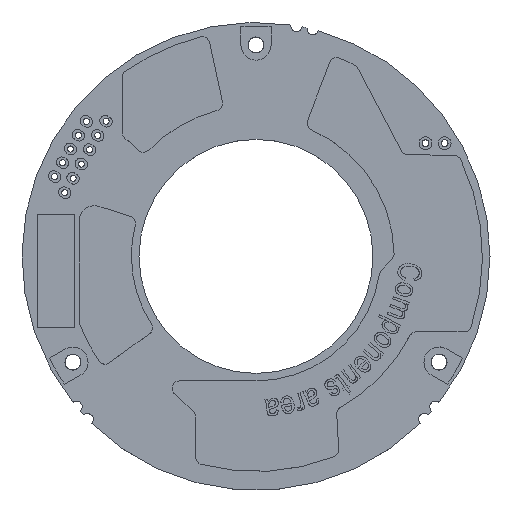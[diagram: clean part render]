
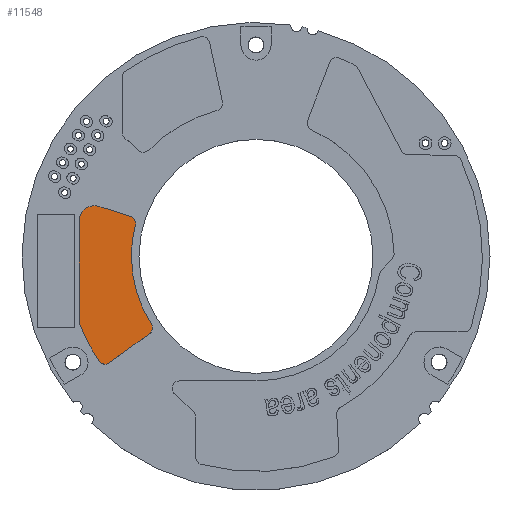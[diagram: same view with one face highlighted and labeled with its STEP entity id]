
A CAD part, top view. The second image highlights one B-rep face of the part: STEP entity #11548.
In plain terms, the highlighted planar face has unit normal (0, 0, 1).
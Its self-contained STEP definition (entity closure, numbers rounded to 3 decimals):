
#1 = CARTESIAN_POINT ( 'NONE',  ( 8.594, 29.712, 2.3 ) ) ;
#357 = CARTESIAN_POINT ( 'NONE',  ( 9.17, 11.176, 2.3 ) ) ;
#378 = CARTESIAN_POINT ( 'NONE',  ( 15.271, 15.55, 2.3 ) ) ;
#2831 = ORIENTED_EDGE ( 'NONE', *, *, #43457, .T. ) ;
#3471 = CARTESIAN_POINT ( 'NONE',  ( 9.2, 31.618, 2.3 ) ) ;
#3557 = PLANE ( 'NONE',  #38027 ) ;
#3920 = CIRCLE ( 'NONE', #37502, 16.5 ) ;
#4774 = EDGE_CURVE ( 'NONE', #26475, #36529, #43014, .T. ) ;
#5267 = VECTOR ( 'NONE', #18333, 1000. ) ;
#6049 = CARTESIAN_POINT ( 'NONE',  ( 14.277, 30.003, 2.3 ) ) ;
#6112 = VERTEX_POINT ( 'NONE', #35455 ) ;
#6331 = DIRECTION ( 'NONE',  ( -0.953, 0.303, 0. ) ) ;
#6802 = VECTOR ( 'NONE', #22735, 1000. ) ;
#7563 = VERTEX_POINT ( 'NONE', #57113 ) ;
#8811 = DIRECTION ( 'NONE',  ( 0., 0., 1. ) ) ;
#10110 = LINE ( 'NONE', #54402, #5267 ) ;
#10896 = CARTESIAN_POINT ( 'NONE',  ( 30., 25., 2.3 ) ) ;
#11156 = VECTOR ( 'NONE', #6331, 1000. ) ;
#11206 = CIRCLE ( 'NONE', #25171, 1. ) ;
#11548 = ADVANCED_FACE ( 'NONE', ( #48506 ), #3557, .T. ) ;
#12911 = CARTESIAN_POINT ( 'NONE',  ( 7.594, 16.4, 2.3 ) ) ;
#13164 = DIRECTION ( 'NONE',  ( -1., 0., 0. ) ) ;
#13383 = ORIENTED_EDGE ( 'NONE', *, *, #55078, .T. ) ;
#15378 = ORIENTED_EDGE ( 'NONE', *, *, #4774, .T. ) ;
#15591 = DIRECTION ( 'NONE',  ( 0., 0., -1. ) ) ;
#16144 = VERTEX_POINT ( 'NONE', #18859 ) ;
#16810 = DIRECTION ( 'NONE',  ( 0., 0., 1. ) ) ;
#17058 = DIRECTION ( 'NONE',  ( 0., 0., 1. ) ) ;
#18333 = DIRECTION ( 'NONE',  ( 0., -1., 0. ) ) ;
#18597 = CARTESIAN_POINT ( 'NONE',  ( 6.66, 16.042, 2.3 ) ) ;
#18859 = CARTESIAN_POINT ( 'NONE',  ( 14.016, 29.096, 2.3 ) ) ;
#19397 = AXIS2_PLACEMENT_3D ( 'NONE', #47706, #16810, #43921 ) ;
#19837 = CARTESIAN_POINT ( 'NONE',  ( 15.858, 14.741, 2.3 ) ) ;
#19872 = DIRECTION ( 'NONE',  ( 1., 0., 0. ) ) ;
#20285 = CIRCLE ( 'NONE', #19397, 1. ) ;
#20879 = VERTEX_POINT ( 'NONE', #357 ) ;
#21895 = DIRECTION ( 'NONE',  ( 0., 0., 1. ) ) ;
#22502 = EDGE_CURVE ( 'NONE', #38147, #56189, #11206, .T. ) ;
#22734 = ORIENTED_EDGE ( 'NONE', *, *, #22502, .T. ) ;
#22735 = DIRECTION ( 'NONE',  ( 0.809, 0.587, 0. ) ) ;
#22997 = ORIENTED_EDGE ( 'NONE', *, *, #36223, .T. ) ;
#23678 = CIRCLE ( 'NONE', #48852, 25. ) ;
#24243 = CARTESIAN_POINT ( 'NONE',  ( 13.5, 25., 2.3 ) ) ;
#25171 = AXIS2_PLACEMENT_3D ( 'NONE', #378, #17058, #35701 ) ;
#25191 = CIRCLE ( 'NONE', #27122, 2. ) ;
#26475 = VERTEX_POINT ( 'NONE', #27393 ) ;
#27122 = AXIS2_PLACEMENT_3D ( 'NONE', #1, #21895, #13164 ) ;
#27393 = CARTESIAN_POINT ( 'NONE',  ( 13.351, 30.297, 2.3 ) ) ;
#29670 = EDGE_CURVE ( 'NONE', #7563, #56497, #10110, .T. ) ;
#30416 = CARTESIAN_POINT ( 'NONE',  ( 30., 25., 2.3 ) ) ;
#31502 = CARTESIAN_POINT ( 'NONE',  ( 16.644, 15.311, 2.3 ) ) ;
#31923 = ORIENTED_EDGE ( 'NONE', *, *, #29670, .T. ) ;
#32987 = ORIENTED_EDGE ( 'NONE', *, *, #49304, .T. ) ;
#35455 = CARTESIAN_POINT ( 'NONE',  ( 10.59, 10.92, 2.3 ) ) ;
#35701 = DIRECTION ( 'NONE',  ( 1., 0., 0. ) ) ;
#35772 = CARTESIAN_POINT ( 'NONE',  ( 30., 25., 2.3 ) ) ;
#36223 = EDGE_CURVE ( 'NONE', #56497, #56853, #48644, .T. ) ;
#36529 = VERTEX_POINT ( 'NONE', #3471 ) ;
#37310 = EDGE_CURVE ( 'NONE', #6112, #38147, #39976, .T. ) ;
#37502 = AXIS2_PLACEMENT_3D ( 'NONE', #42027, #38510, #19872 ) ;
#38027 = AXIS2_PLACEMENT_3D ( 'NONE', #30416, #57546, #53164 ) ;
#38147 = VERTEX_POINT ( 'NONE', #19837 ) ;
#38510 = DIRECTION ( 'NONE',  ( 0., 0., -1. ) ) ;
#38573 = DIRECTION ( 'NONE',  ( 1., 0., 0. ) ) ;
#39010 = ORIENTED_EDGE ( 'NONE', *, *, #41488, .T. ) ;
#39870 = DIRECTION ( 'NONE',  ( 0., 0., 1. ) ) ;
#39976 = LINE ( 'NONE', #31502, #6802 ) ;
#40449 = ORIENTED_EDGE ( 'NONE', *, *, #37310, .T. ) ;
#40728 = CARTESIAN_POINT ( 'NONE',  ( 16.112, 16.09, 2.3 ) ) ;
#41488 = EDGE_CURVE ( 'NONE', #20879, #6112, #20285, .T. ) ;
#42027 = CARTESIAN_POINT ( 'NONE',  ( 30., 25., 2.3 ) ) ;
#43014 = LINE ( 'NONE', #6049, #11156 ) ;
#43404 = EDGE_LOOP ( 'NONE', ( #13383, #52139, #2831, #15378, #32987, #31923, #22997, #53776, #39010, #40449, #22734 ) ) ;
#43457 = EDGE_CURVE ( 'NONE', #16144, #26475, #46224, .T. ) ;
#43921 = DIRECTION ( 'NONE',  ( 1., 0., 0. ) ) ;
#43981 = DIRECTION ( 'NONE',  ( 0., 0., 1. ) ) ;
#44863 = DIRECTION ( 'NONE',  ( 1., 0., 0. ) ) ;
#46224 = CIRCLE ( 'NONE', #47112, 1. ) ;
#46801 = AXIS2_PLACEMENT_3D ( 'NONE', #12911, #8811, #49362 ) ;
#47112 = AXIS2_PLACEMENT_3D ( 'NONE', #48326, #43981, #44863 ) ;
#47706 = CARTESIAN_POINT ( 'NONE',  ( 10.003, 11.729, 2.3 ) ) ;
#48326 = CARTESIAN_POINT ( 'NONE',  ( 13.048, 29.344, 2.3 ) ) ;
#48506 = FACE_OUTER_BOUND ( 'NONE', #43404, .T. ) ;
#48644 = CIRCLE ( 'NONE', #46801, 1. ) ;
#48852 = AXIS2_PLACEMENT_3D ( 'NONE', #35772, #39870, #54096 ) ;
#49304 = EDGE_CURVE ( 'NONE', #36529, #7563, #25191, .T. ) ;
#49362 = DIRECTION ( 'NONE',  ( 1., 0., 0. ) ) ;
#49568 = VERTEX_POINT ( 'NONE', #24243 ) ;
#49661 = CIRCLE ( 'NONE', #51500, 16.5 ) ;
#51500 = AXIS2_PLACEMENT_3D ( 'NONE', #10896, #15591, #38573 ) ;
#52139 = ORIENTED_EDGE ( 'NONE', *, *, #54138, .T. ) ;
#53164 = DIRECTION ( 'NONE',  ( 1., 0., 0. ) ) ;
#53776 = ORIENTED_EDGE ( 'NONE', *, *, #56180, .T. ) ;
#54029 = CARTESIAN_POINT ( 'NONE',  ( 6.594, 16.4, 2.3 ) ) ;
#54096 = DIRECTION ( 'NONE',  ( 1., 0., 0. ) ) ;
#54138 = EDGE_CURVE ( 'NONE', #49568, #16144, #49661, .T. ) ;
#54402 = CARTESIAN_POINT ( 'NONE',  ( 6.594, 16.217, 2.3 ) ) ;
#55078 = EDGE_CURVE ( 'NONE', #56189, #49568, #3920, .T. ) ;
#56180 = EDGE_CURVE ( 'NONE', #56853, #20879, #23678, .T. ) ;
#56189 = VERTEX_POINT ( 'NONE', #40728 ) ;
#56497 = VERTEX_POINT ( 'NONE', #54029 ) ;
#56853 = VERTEX_POINT ( 'NONE', #18597 ) ;
#57113 = CARTESIAN_POINT ( 'NONE',  ( 6.594, 29.712, 2.3 ) ) ;
#57546 = DIRECTION ( 'NONE',  ( 0., 0., 1. ) ) ;
